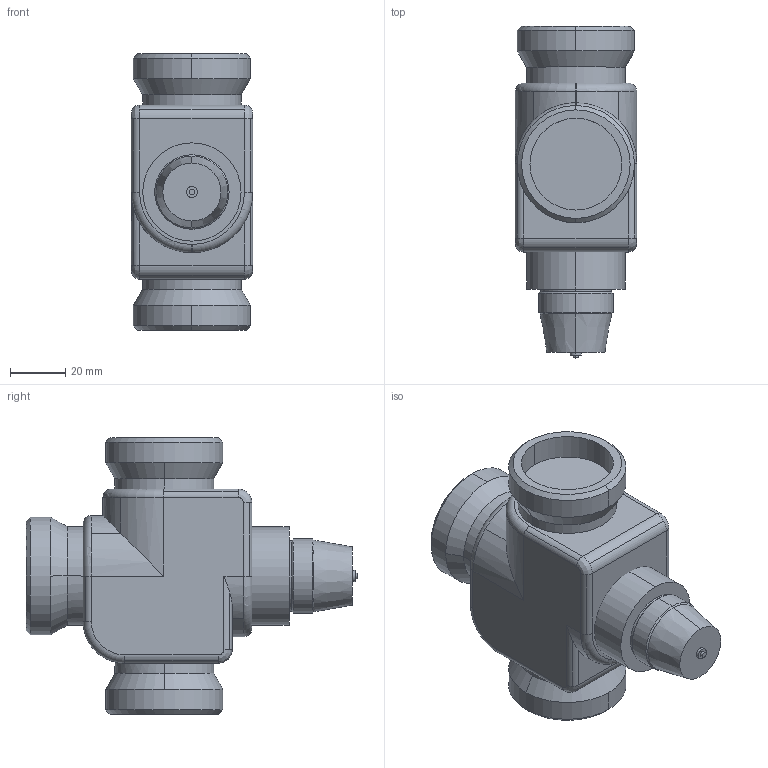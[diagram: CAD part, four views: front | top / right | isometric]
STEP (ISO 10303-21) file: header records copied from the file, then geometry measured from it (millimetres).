
FILE_DESCRIPTION((''),'2;1');
FILE_NAME('000311.stp','2006-09-29T17:26:58',(''),(''),'Mechanical Desktop 2006','Mechanical Desktop 2006',', , ');
FILE_SCHEMA(('AUTOMOTIVE_DESIGN { 1 2 10303 214 0 1 1 1 }'));
Length unit declared in the file: millimetre
Products named in the file (1): Product
Bounding box: 43.88 x 120 x 100 mm (x, y, z)
Volume: 225069.9 mm3; surface area: 39115.6 mm2
Topology: 10 solids, 10 shells, 133 faces, 292 edges, 180 vertices
Faces by surface type: cylinder 60, bspline 30, plane 25, cone 10, torus 8
Entity records: 4246 total; most frequent: CARTESIAN_POINT 1239, DIRECTION 664, ORIENTED_EDGE 584, EDGE_CURVE 292, AXIS2_PLACEMENT_3D 274, VERTEX_POINT 180, CIRCLE 166, EDGE_LOOP 140
